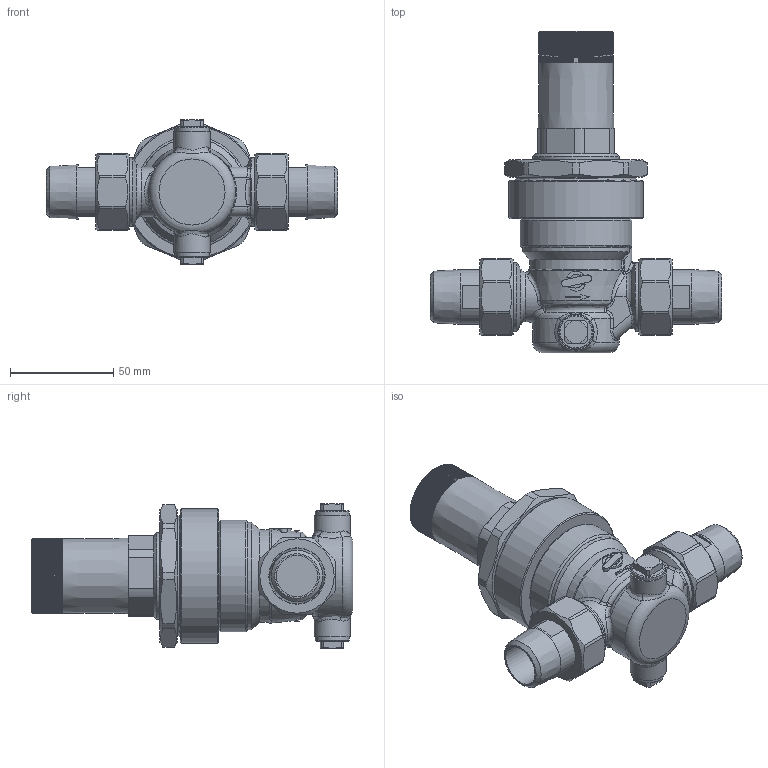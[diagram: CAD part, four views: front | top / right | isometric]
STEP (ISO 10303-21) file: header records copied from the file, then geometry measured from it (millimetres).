
FILE_DESCRIPTION(/* description */ (''),/* implementation_level */ '2;1');
FILE_NAME(/* name */ 'U:/AirCom-Produktdokumentation/Druckregler/RWA/Zeichnungen/CAD-Aircom/3D/B-RWA-06A.step',/* time_stamp */ '2022-07-04T12:10:03+02:00',/* author */ (''),/* organization */ (''),/* preprocessor_version */ 'ST-DEVELOPER v19',/* originating_system */ 'Autodesk Translation Framework v11.7.0.108',/* authorisation */ '');
FILE_SCHEMA (('AUTOMOTIVE_DESIGN { 1 0 10303 214 3 1 1 }'));
Length unit declared in the file: millimetre
Products named in the file (1): 045003_step
Bounding box: 141 x 155.7 x 70 mm (x, y, z)
Volume: 328479.1 mm3; surface area: 51773.2 mm2
Topology: 1 solids, 16 shells, 1314 faces, 3234 edges, 1969 vertices
Faces by surface type: plane 843, cylinder 331, bspline 67, cone 57, torus 14, sphere 2
Full cylindrical faces by diameter (mm): 3 x2, 7 x1, 7.2 x1, 7.4 x1, 11 x2, 11.45 x2, 12 x1, 13 x1, 16.5 x2, 17.5 x2, 20 x2, 26.6 x2, 27.3 x2, 33.25 x2, 42 x1, 42.2 x1, 48.3 x1, 48.38 x1, 54 x1, 58 x1, 60 x1, 65 x1
Entity records: 44669 total; most frequent: CARTESIAN_POINT 13389, ORIENTED_EDGE 6458, DIRECTION 6096, EDGE_CURVE 3229, AXIS2_PLACEMENT_3D 2314, VERTEX_POINT 1969, LINE 1468, VECTOR 1468
